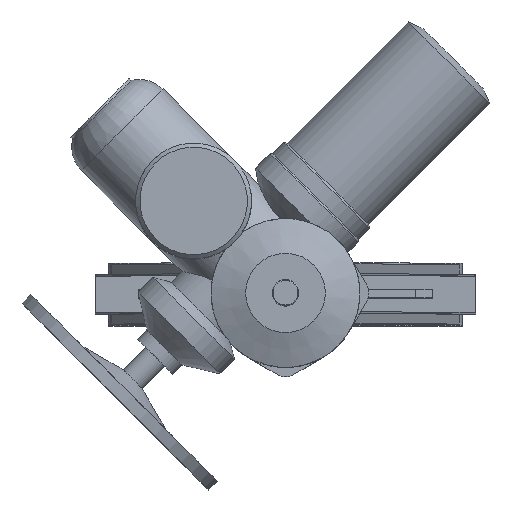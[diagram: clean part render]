
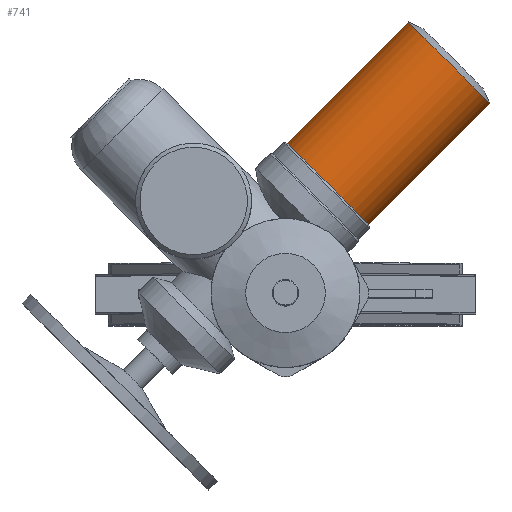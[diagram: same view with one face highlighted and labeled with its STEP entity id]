
A CAD part, top view. The second image highlights one B-rep face of the part: STEP entity #741.
In plain terms, the highlighted cylindrical face has radius 70 mm (diameter 140 mm), a full revolution.
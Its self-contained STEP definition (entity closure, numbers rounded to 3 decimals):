
#741=ADVANCED_FACE('',(#3597,#3599),#3601,.T.);
#3597=FACE_OUTER_BOUND('',#3598,.T.);
#3598=EDGE_LOOP('',(#5809));
#3599=FACE_OUTER_BOUND('',#3600,.T.);
#3600=EDGE_LOOP('',(#5810));
#3601=CYLINDRICAL_SURFACE('',#3602,70.);
#3602=AXIS2_PLACEMENT_3D('',#3603,#3604,#3605);
#3603=CARTESIAN_POINT('',(197.792,278.403,1027.));
#3604=DIRECTION('',(-0.707,-0.707,0.));
#3605=DIRECTION('',(0.,0.,1.));
#5809=ORIENTED_EDGE('',*,*,#7282,.T.);
#5810=ORIENTED_EDGE('',*,*,#7243,.F.);
#7243=EDGE_CURVE('',#8174,#8174,#8175,.T.);
#7282=EDGE_CURVE('',#8244,#8244,#8245,.T.);
#8174=VERTEX_POINT('',#10834);
#8175=CIRCLE('',#10835,70.);
#8244=VERTEX_POINT('',#10989);
#8245=CIRCLE('',#10990,70.);
#10834=CARTESIAN_POINT('',(51.482,132.093,1097.));
#10835=AXIS2_PLACEMENT_3D('',#10836,#10837,#10838);
#10836=CARTESIAN_POINT('',(51.482,132.093,1027.));
#10837=DIRECTION('',(-0.707,-0.707,0.));
#10838=DIRECTION('',(0.,0.,1.));
#10989=CARTESIAN_POINT('',(197.792,278.403,1097.));
#10990=AXIS2_PLACEMENT_3D('',#10991,#10992,#10993);
#10991=CARTESIAN_POINT('',(197.792,278.403,1027.));
#10992=DIRECTION('',(-0.707,-0.707,0.));
#10993=DIRECTION('',(0.,0.,1.));
